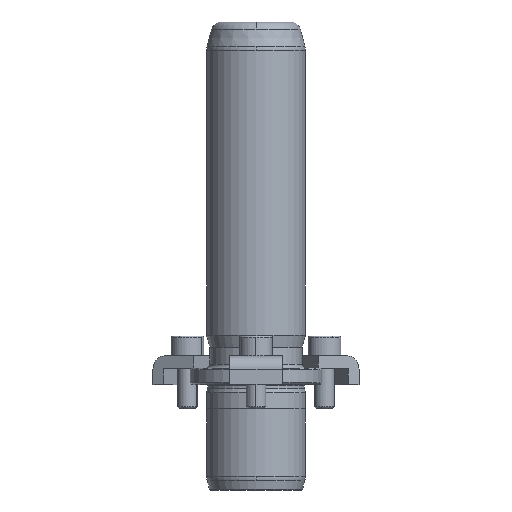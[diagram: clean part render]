
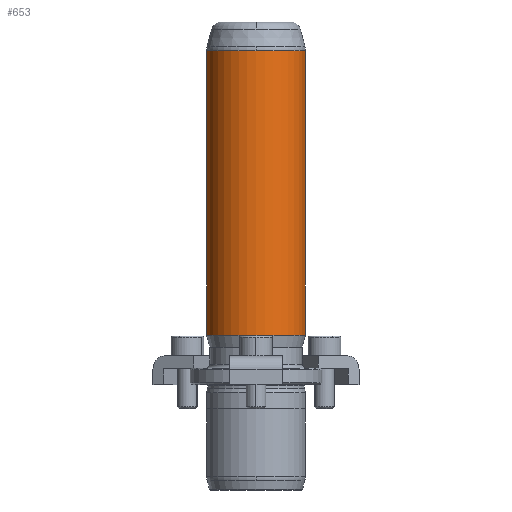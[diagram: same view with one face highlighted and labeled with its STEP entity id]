
A CAD part, front view. The second image highlights one B-rep face of the part: STEP entity #653.
In plain terms, the highlighted cylindrical face has radius 15 mm (diameter 30 mm), a partial arc.
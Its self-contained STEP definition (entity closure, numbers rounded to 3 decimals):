
#566=CARTESIAN_POINT('',(0.0,-15.,101.342));
#567=VERTEX_POINT('',#566);
#594=CARTESIAN_POINT('',(-15.0,0.,101.342));
#595=VERTEX_POINT('',#594);
#603=CARTESIAN_POINT('',(0.0,0.,101.342));
#604=DIRECTION('',(0.0,0.0,1.0));
#605=DIRECTION('',(1.0,0.0,0.0));
#606=AXIS2_PLACEMENT_3D('',#603,#604,#605);
#607=CIRCLE('',#606,15.);
#608=EDGE_CURVE('',#595,#567,#607,.T.);
#613=CARTESIAN_POINT('',(0.0,0.,58.171));
#614=DIRECTION('',(0.0,0.,1.0));
#615=DIRECTION('',(1.0,0.0,0.0));
#616=AXIS2_PLACEMENT_3D('',#613,#614,#615);
#617=CYLINDRICAL_SURFACE('',#616,15.0);
#618=CARTESIAN_POINT('',(15.,0.,101.342));
#619=VERTEX_POINT('',#618);
#620=CARTESIAN_POINT('',(15.0,0.,15.0));
#621=VERTEX_POINT('',#620);
#622=CARTESIAN_POINT('',(15.,0.,101.342));
#623=DIRECTION('',(0.0,0.0,-1.0));
#624=VECTOR('',#623,86.342);
#625=LINE('',#622,#624);
#626=EDGE_CURVE('',#619,#621,#625,.T.);
#627=ORIENTED_EDGE('',*,*,#626,.F.);
#628=CARTESIAN_POINT('',(0.0,0.,101.342));
#629=DIRECTION('',(0.0,0.0,1.0));
#630=DIRECTION('',(1.0,0.0,0.0));
#631=AXIS2_PLACEMENT_3D('',#628,#629,#630);
#632=CIRCLE('',#631,15.);
#633=EDGE_CURVE('',#567,#619,#632,.T.);
#634=ORIENTED_EDGE('',*,*,#633,.F.);
#635=ORIENTED_EDGE('',*,*,#608,.F.);
#636=CARTESIAN_POINT('',(-15.0,0.,15.0));
#637=VERTEX_POINT('',#636);
#638=CARTESIAN_POINT('',(-15.0,0.,101.342));
#639=DIRECTION('',(0.0,0.0,-1.0));
#640=VECTOR('',#639,86.342);
#641=LINE('',#638,#640);
#642=EDGE_CURVE('',#595,#637,#641,.T.);
#643=ORIENTED_EDGE('',*,*,#642,.T.);
#644=CARTESIAN_POINT('',(0.0,0.,15.0));
#645=DIRECTION('',(0.0,0.0,1.0));
#646=DIRECTION('',(1.0,0.0,0.0));
#647=AXIS2_PLACEMENT_3D('',#644,#645,#646);
#648=CIRCLE('',#647,15.0);
#649=EDGE_CURVE('',#637,#621,#648,.T.);
#650=ORIENTED_EDGE('',*,*,#649,.T.);
#651=EDGE_LOOP('',(#627,#634,#635,#643,#650));
#652=FACE_OUTER_BOUND('',#651,.T.);
#653=ADVANCED_FACE('',(#652),#617,.T.);
